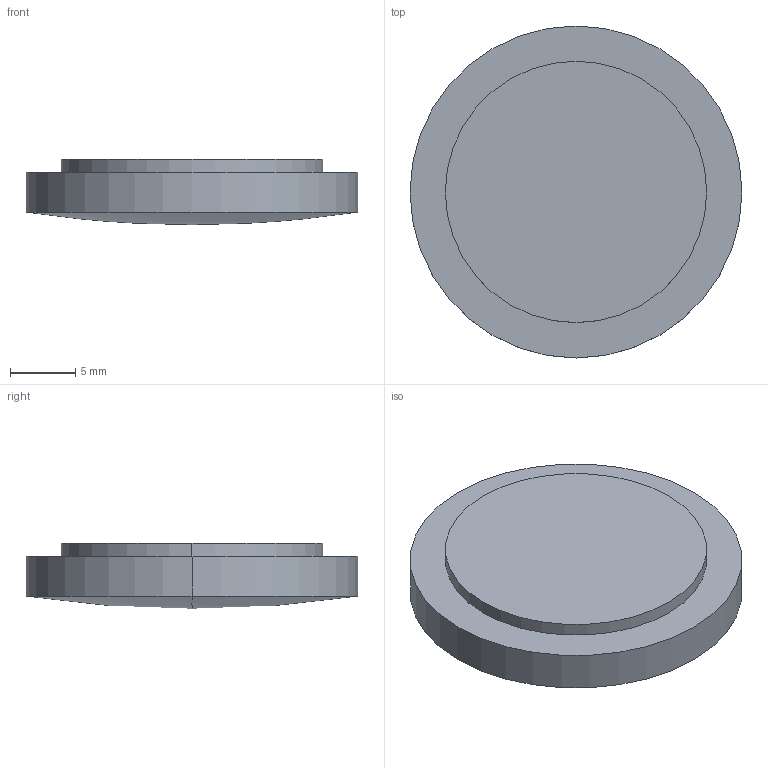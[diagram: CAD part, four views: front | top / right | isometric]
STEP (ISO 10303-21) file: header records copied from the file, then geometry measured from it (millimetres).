
FILE_DESCRIPTION(('STEP AP214'),'1');
FILE_NAME('LL-25-125.STEP','2020-03-09T17:41:07',(' '),(' '),'Spatial InterOp 3D',' ',' ');
FILE_SCHEMA(('AUTOMOTIVE_DESIGN { 1 0 10303 214 1 1 1 1 }'));
Length unit declared in the file: millimetre
Products named in the file (1): 1
Bounding box: 25.4 x 25.4 x 5 mm (x, y, z)
Volume: 2099.1 mm3; surface area: 1950.3 mm2
Topology: 2 solids, 2 shells, 9 faces, 16 edges, 9 vertices
Faces by surface type: cylinder 4, plane 3, sphere 2
Entity records: 229 total; most frequent: DIRECTION 46, CARTESIAN_POINT 34, ORIENTED_EDGE 28, AXIS2_PLACEMENT_3D 21, EDGE_CURVE 14, CIRCLE 10, ADVANCED_FACE 9, FACE_OUTER_BOUND 9
